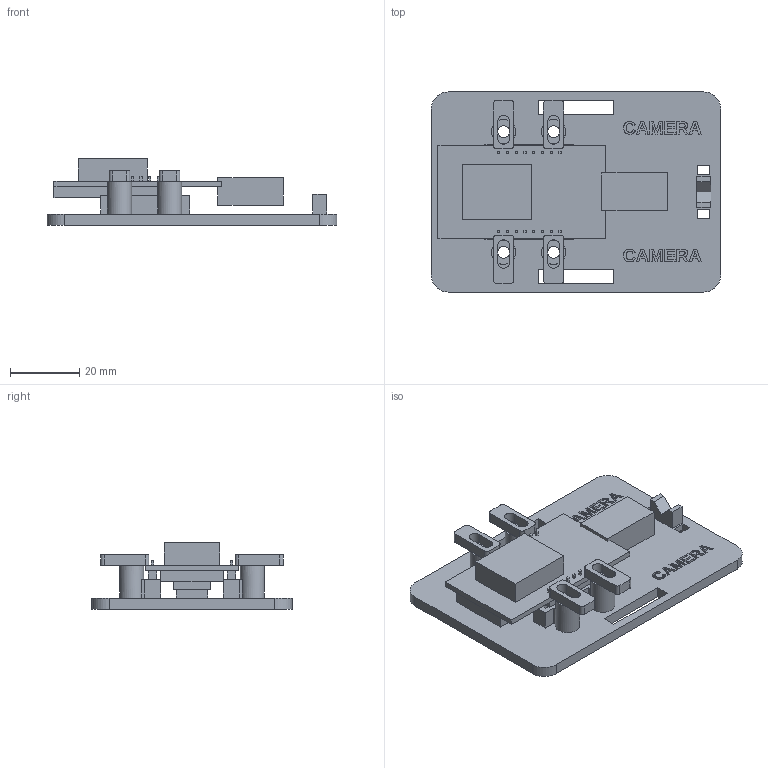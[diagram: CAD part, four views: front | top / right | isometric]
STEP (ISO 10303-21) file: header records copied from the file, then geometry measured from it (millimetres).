
FILE_DESCRIPTION(('Open CASCADE Model'),'2;1');
FILE_NAME('Open CASCADE Shape Model','2026-11-11T17:54:49',('Author'),( 'Open CASCADE'),'Open CASCADE STEP processor 7.9','Open CASCADE 7.9' ,'Unknown');
FILE_SCHEMA(('AUTOMOTIVE_DESIGN { 1 0 10303 214 1 1 1 1 }'));
Length unit declared in the file: millimetre
Products named in the file (13): MicroScan_V5_nominal_assembly; carrier; retainer_1; retainer_2; retainer_3; retainer_4; NOMINAL_pcb; NOMINAL_header_bodies; NOMINAL_header_pins; NOMINAL_solder_tails; NOMINAL_module; NOMINAL_usb_plug; NOMINAL_camera_stack
Assembly tree (12 placements, depth 2):
  MicroScan_V5_nominal_assembly
    carrier
    retainer_1
    retainer_2
    retainer_3
    retainer_4
    NOMINAL_pcb
    NOMINAL_header_bodies
    NOMINAL_header_pins
    NOMINAL_solder_tails
    NOMINAL_module
    NOMINAL_usb_plug
    NOMINAL_camera_stack
Bounding box: 84 x 58 x 19.24 mm (x, y, z)
Volume: 24889.3 mm3; surface area: 21542.1 mm2
Topology: 43 solids, 43 shells, 583 faces, 1413 edges, 942 vertices
Faces by surface type: plane 483, extrusion 60, cylinder 40
Full cylindrical faces by diameter (mm): 3.4 x4, 6.6 x4, 7 x4
Entity records: 37389 total; most frequent: CARTESIAN_POINT 8997, DIRECTION 4749, VECTOR 3459, LINE 3399, ORIENTED_EDGE 2826, PCURVE 2826, DEFINITIONAL_REPRESENTATION 2826, EDGE_CURVE 1413
